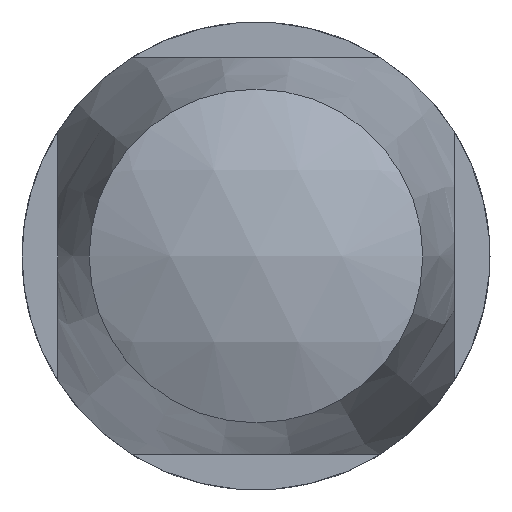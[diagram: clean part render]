
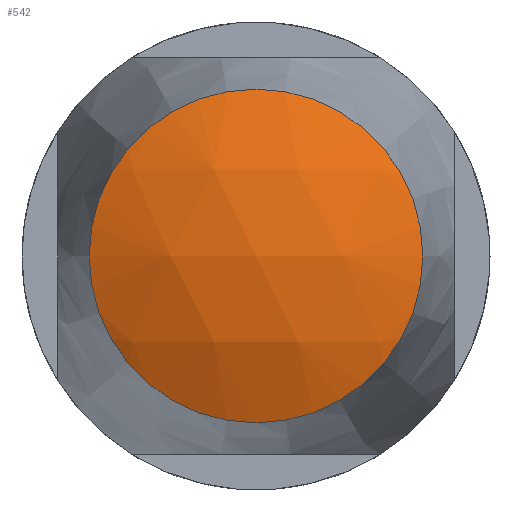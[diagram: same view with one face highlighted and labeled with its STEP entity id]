
A CAD part, front view. The second image highlights one B-rep face of the part: STEP entity #542.
In plain terms, the highlighted spherical face has radius 4.675 mm.
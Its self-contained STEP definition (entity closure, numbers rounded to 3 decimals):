
#19=SPHERICAL_SURFACE('',#601,4.675);
#184=FACE_OUTER_BOUND('',#229,.T.);
#229=EDGE_LOOP('',(#499));
#252=CIRCLE('',#602,2.104);
#301=VERTEX_POINT('',#1055);
#370=EDGE_CURVE('',#301,#301,#252,.T.);
#499=ORIENTED_EDGE('',*,*,#370,.F.);
#542=ADVANCED_FACE('',(#184),#19,.T.);
#601=AXIS2_PLACEMENT_3D('',#1054,#749,#750);
#602=AXIS2_PLACEMENT_3D('',#1056,#751,#752);
#749=DIRECTION('center_axis',(0.,0.,1.));
#750=DIRECTION('ref_axis',(1.,0.,0.));
#751=DIRECTION('center_axis',(0.,1.,0.));
#752=DIRECTION('ref_axis',(-1.,0.,0.));
#1054=CARTESIAN_POINT('Origin',(0.,-17.065,
0.));
#1055=CARTESIAN_POINT('',(-2.104,-21.24,0.));
#1056=CARTESIAN_POINT('Origin',(0.,-21.24,0.));
